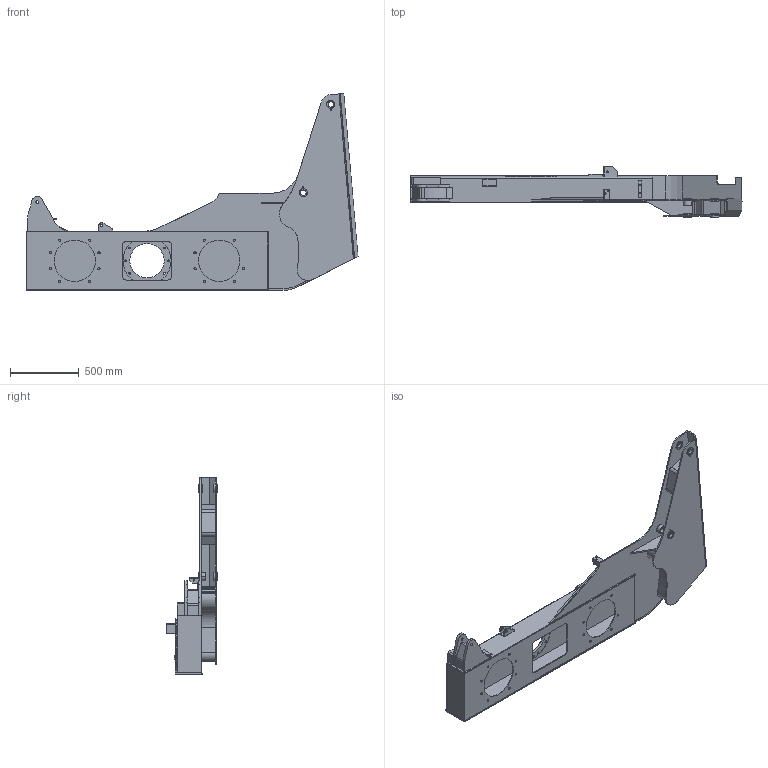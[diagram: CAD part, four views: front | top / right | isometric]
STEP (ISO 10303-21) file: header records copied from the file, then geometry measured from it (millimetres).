
FILE_DESCRIPTION(('CAx-IF Rec.Pracs.---Model Styling and Organization---1.2---2011-12-15','CAx-IF Rec.Pracs.---Geometric and Assembly Validation Properties---4.1---2014-06-16','CAx-IF Rec.Pracs.---PMI Polyline Presentation---2.0---2013-05-24'),'2;1');
FILE_NAME('Skid.stp','2023-03-13T19:31:46+06:00',(''),(''),'STEP Interface 2021 SP3 by CT CoreTechnologie','3D_Kernel_IO2021 SP3 by CT CoreTechnologie','');
FILE_SCHEMA(('AUTOMOTIVE_DESIGN { 1 0 10303 214 1 1 1 1 }'));
Length unit declared in the file: millimetre
Products named in the file (27): Skid; Part26; Part25; Part24; Part23; Part22; Part21; Part20; Part19; Part18; Part17; Part16; Part15; Part14; Part13; Part12; Part11; Part10; Part9; Part8; Part7; Part6; Part5; Part4; Part3; Part2; Part1
Assembly tree (26 placements, depth 2):
  Skid
    Part26
    Part25
    Part24
    Part23
    Part22
    Part21
    Part20
    Part19
    Part18
    Part17
    Part16
    Part15
    Part14
    Part13
    Part12
    Part11
    Part10
    Part9
    Part8
    Part7
    Part6
    Part5
    Part4
    Part3
    Part2
    Part1
Bounding box: 2411.69 x 367 x 1430.7 mm (x, y, z)
Volume: 28416107.8 mm3; surface area: 7985379.2 mm2
Topology: 26 solids, 26 shells, 429 faces, 1090 edges, 718 vertices
Faces by surface type: cylinder 225, plane 196, bspline 8
Entity records: 37338 total; most frequent: CARTESIAN_POINT 7965, PROPERTY_DEFINITION 2617, DIRECTION 2406, ORIENTED_EDGE 2180, SHAPE_REPRESENTATION 1322, INTEGER_REPRESENTATION_ITEM 1322, REPRESENTATION 1322, GENERAL_PROPERTY 1322
